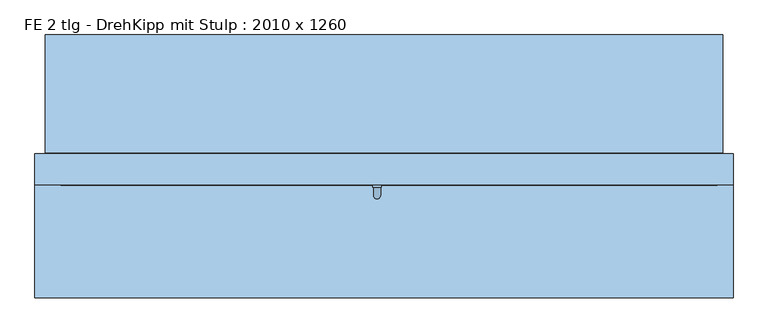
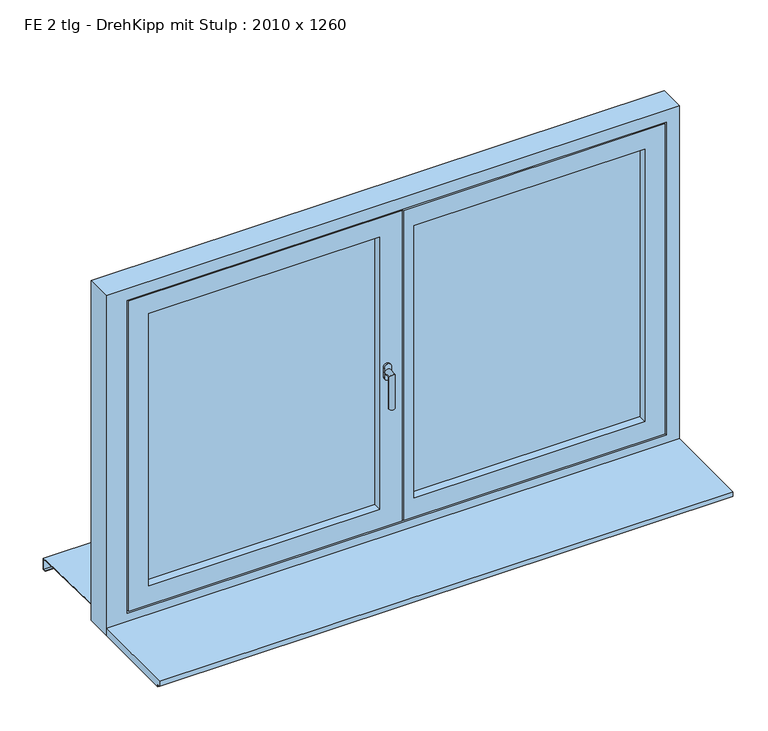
"""IFC4 building model written with IfcOpenShell, lengths in millimetres: window geometry, FE 2 tlg - DrehKipp mit Stulp : 2010 x 1260."""

from ifc_helpers import new_model, si_unit, frame, origin, place, context, project, spatial, polyline, circle_curve, ellipse_curve, outline, extrude, faceted_brep, source, transform, mapped, element, save
from ifc_brep_helpers import plane_surface, cylinder_surface, advanced_brep


def fe_2_tlg_drehkipp_mit_stulp_2010_x_1260_aa5a6977(model_context):
    return source(origin(), model_context, "Body", "SolidModel", [
        advanced_brep(
        [(-32.5, 12.5, 1502.5), (-7.5, 12.5, 1502.5), (-7.5, 12.5, 1485.0), (-7.5, 12.5, 1467.5), (-32.5, 12.5, 1467.5), (-32.5, 12.5, 1485.0), (-10.0, -17.5, 1485.0), (-10.0, 6.5, 1485.0), (-30.0, 6.5, 1485.0), (-30.0, -17.5, 1485.0), (-10.0, -17.5, 1365.0), (-30.0, -17.5, 1365.0), (-32.5, 6.5, 1502.5), (-32.5, 6.5, 1485.0), (-32.5, 6.5, 1467.5), (-7.5, 6.5, 1467.5), (-7.5, 6.5, 1485.0), (-7.5, 6.5, 1502.5)],
        [
            (0, 1, circle_curve(frame((-20.0, 12.5, 1502.5), z_axis=(0.0, 1.0, 0.0), x_axis=(-1.0, 0.0, 0.0)), 12.5)),
            (1, 2),
            (2, 3),
            (3, 4, circle_curve(frame((-20.0, 12.5, 1467.5), z_axis=(0.0, 1.0, 0.0), x_axis=(-1.0, 0.0, 0.0)), 12.5)),
            (4, 5),
            (5, 0),
            (6, 7),
            (7, 8, circle_curve(frame((-20.0, 6.5, 1485.0), z_axis=(0.0, -1.0, 0.0), x_axis=(-1.0, 0.0, 0.0)), 10.0)),
            (8, 9),
            (9, 6, ellipse_curve(frame((-20.0, -17.5, 1485.0), z_axis=(0.0, 0.7071067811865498, 0.7071067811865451), x_axis=(0.0, 0.7071067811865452, -0.7071067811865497)), 14.1421356, 10.0)),
            (8, 7, circle_curve(frame((-20.0, 6.5, 1485.0), z_axis=(0.0, -1.0, 0.0), x_axis=(-1.0, 0.0, 0.0)), 10.0)),
            (6, 9, ellipse_curve(frame((-20.0, -17.5, 1485.0), z_axis=(0.0, 0.7071067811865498, 0.7071067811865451), x_axis=(0.0, 0.7071067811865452, -0.7071067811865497)), 14.1421356, 10.0)),
            (10, 11, circle_curve(frame((-20.0, -17.5, 1365.0), z_axis=(0.0, 0.0, -1.0), x_axis=(-1.0, 0.0, 0.0)), 10.0)),
            (11, 10, circle_curve(frame((-20.0, -17.5, 1365.0), z_axis=(0.0, 0.0, -1.0), x_axis=(-1.0, 0.0, 0.0)), 10.0)),
            (9, 11),
            (10, 6),
            (12, 13),
            (13, 14),
            (14, 15, circle_curve(frame((-20.0, 6.5, 1467.5), z_axis=(0.0, -1.0, 0.0), x_axis=(-1.0, 0.0, 0.0)), 12.5)),
            (15, 16),
            (16, 17),
            (17, 12, circle_curve(frame((-20.0, 6.5, 1502.5), z_axis=(0.0, -1.0, 0.0), x_axis=(-1.0, 0.0, 0.0)), 12.5)),
            (17, 1),
            (0, 12),
            (16, 2),
            (15, 3),
            (14, 4),
            (13, 5),
        ],
        [
            plane_surface(frame((-20.0, 12.5, 1485.0), z_axis=(0.0, 1.0, 0.0), x_axis=(-1.0, 0.0, 0.0))),
            cylinder_surface(frame((-20.0, 12.5, 1485.0), z_axis=(0.0, 1.0, 0.0), x_axis=(-1.0, 0.0, 0.0)), 10.0),
            plane_surface(frame((-20.0, -17.5, 1365.0), z_axis=(0.0, 0.0, -1.0), x_axis=(-1.0, 0.0, 0.0))),
            cylinder_surface(frame((-20.0, -17.5, 1485.0), z_axis=(0.0, 0.0, 1.0), x_axis=(-1.0, 0.0, 0.0)), 10.0),
            plane_surface(frame((-32.5, 6.5, 1502.5), z_axis=(0.0, -1.0, 0.0), x_axis=(0.0, 0.0, 1.0))),
            cylinder_surface(frame((-20.0, 12.5, 1502.5), z_axis=(0.0, -1.0, 0.0), x_axis=(-1.0, 0.0, 0.0)), 12.5),
            plane_surface(frame((-7.5, 6.5, 1502.5), z_axis=(1.0, 0.0, 0.0), x_axis=(0.0, 1.0, 0.0))),
            plane_surface(frame((-7.5, 6.5, 1485.0), z_axis=(1.0, 0.0, 0.0), x_axis=(0.0, 1.0, 0.0))),
            cylinder_surface(frame((-20.0, 12.5, 1467.5), z_axis=(0.0, -1.0, 0.0), x_axis=(-1.0, 0.0, 0.0)), 12.5),
            plane_surface(frame((-32.5, 6.5, 1467.5), z_axis=(-1.0, 0.0, 0.0), x_axis=(0.0, 1.0, 0.0))),
            plane_surface(frame((-32.5, 6.5, 1485.0), z_axis=(-1.0, 0.0, 0.0), x_axis=(0.0, 1.0, 0.0))),
        ],
        [
            (0, [[1, 2, 3, 4, 5, 6]]),
            (1, [[7, 8, 9, 10]]),
            (1, [[-9, 11, -7, 12]]),
            (2, [[13, 14]]),
            (3, [[15, -13, 16, -10]]),
            (3, [[-16, -14, -15, -12]]),
            (4, [[17, 18, 19, 20, 21, 22], [-11, -8]]),
            (5, [[23, -1, 24, -22]]),
            (6, [[25, -2, -23, -21]]),
            (7, [[26, -3, -25, -20]]),
            (8, [[27, -4, -26, -19]]),
            (9, [[28, -5, -27, -18]]),
            (10, [[-24, -6, -28, -17]]),
        ],
    ),
        extrude(outline(polyline([(75.0, 43.5), (75.0, 87.5), (885.0, 87.5), (885.0, 43.5), (75.0, 43.5)])), frame((0.0, 0.0, 980.0), z_axis=(0.0, 0.0, 1.0), x_axis=(1.0, 0.0, 0.0)), (0.0, 0.0, 1.0), 1010.0),
        extrude(outline(polyline([(-855.0, 87.5), (-45.0, 87.5), (-45.0, 43.5), (-855.0, 43.5), (-855.0, 87.5)])), frame((0.0, 0.0, 980.0), z_axis=(0.0, 0.0, 1.0), x_axis=(1.0, 0.0, 0.0)), (0.0, 0.0, 1.0), 1010.0),
        faceted_brep([(-2.5, 102.5, 2020.0), (915.0, 102.5, 2020.0), (915.0, 102.5, 950.0), (-2.5, 102.5, 950.0), (75.0, 102.5, 1990.0), (75.0, 102.5, 980.0), (885.0, 102.5, 980.0), (885.0, 102.5, 1990.0), (37.5, 12.5, 910.0), (37.5, 27.5, 910.0), (955.0, 27.5, 910.0), (955.0, 12.5, 910.0), (955.0, 27.5, 2060.0), (955.0, 12.5, 2060.0), (37.5, 12.5, 2060.0), (75.0, 12.5, 1990.0), (885.0, 12.5, 1990.0), (885.0, 12.5, 980.0), (75.0, 12.5, 980.0), (37.5, 27.5, 2060.0), (37.5, 27.5, 2045.0), (37.5, 27.5, 925.0), (-2.5, 87.5, 950.0), (-2.5, 87.5, 2020.0), (12.5, 87.5, 950.0), (12.5, 87.5, 2020.0), (12.5, 87.5, 935.0), (12.5, 57.5, 935.0), (12.5, 57.5, 2035.0), (12.5, 87.5, 2035.0), (22.5, 57.5, 935.0), (22.5, 57.5, 2035.0), (22.5, 57.5, 925.0), (22.5, 27.5, 925.0), (22.5, 27.5, 2045.0), (22.5, 57.5, 2045.0), (915.0, 87.5, 950.0), (915.0, 87.5, 2020.0), (940.0, 27.5, 2045.0), (940.0, 27.5, 925.0), (930.0, 57.5, 935.0), (930.0, 87.5, 935.0), (930.0, 87.5, 2035.0), (940.0, 57.5, 925.0), (930.0, 57.5, 2035.0), (940.0, 57.5, 2045.0)], [[[0, 1, 2, 3], [4, 5, 6, 7]], [[8, 9, 10, 11]], [[11, 10, 12, 13]], [[13, 14, 8, 11], [15, 16, 17, 18]], [[18, 5, 4, 15]], [[17, 6, 5, 18]], [[16, 7, 6, 17]], [[13, 12, 19, 14]], [[15, 4, 7, 16]], [[14, 19, 20, 21, 9, 8]], [[3, 22, 23, 0]], [[22, 24, 25, 23]], [[24, 26, 27, 28, 29, 25]], [[27, 30, 31, 28]], [[30, 32, 33, 34, 35, 31]], [[33, 21, 20, 34]], [[36, 24, 22, 3, 2]], [[2, 1, 37, 36]], [[38, 20, 19, 12, 10, 9, 21, 39]], [[40, 30, 27, 26, 41]], [[37, 25, 29, 42, 41, 26, 24, 36]], [[39, 21, 33, 32, 43]], [[44, 31, 35, 45, 43, 32, 30, 40]], [[41, 42, 44, 40]], [[43, 45, 38, 39]], [[1, 0, 23, 25, 37]], [[42, 29, 28, 31, 44]], [[45, 35, 34, 20, 38]]]),
        faceted_brep([(-900.0, 87.5, 2035.0), (7.5, 87.5, 2035.0), (7.5, 87.5, 935.0), (-900.0, 87.5, 935.0), (-885.0, 87.5, 950.0), (-7.5, 87.5, 950.0), (-7.5, 87.5, 2020.0), (-885.0, 87.5, 2020.0), (-885.0, 102.5, 2020.0), (-885.0, 102.5, 950.0), (-7.5, 102.5, 950.0), (-7.5, 102.5, 2020.0), (-855.0, 102.5, 1990.0), (-855.0, 102.5, 980.0), (-45.0, 102.5, 980.0), (-45.0, 102.5, 1990.0), (-910.0, 57.5, 2045.0), (17.5, 57.5, 2045.0), (17.5, 57.5, 925.0), (-910.0, 57.5, 925.0), (-900.0, 57.5, 935.0), (7.5, 57.5, 935.0), (7.5, 57.5, 2035.0), (-900.0, 57.5, 2035.0), (-925.0, 27.5, 2060.0), (32.5, 27.5, 2060.0), (32.5, 27.5, 910.0), (-925.0, 27.5, 910.0), (-910.0, 27.5, 925.0), (17.5, 27.5, 925.0), (17.5, 27.5, 2045.0), (-910.0, 27.5, 2045.0), (-925.0, 12.5, 2060.0), (-925.0, 12.5, 910.0), (32.5, 12.5, 910.0), (32.5, 12.5, 2060.0), (-855.0, 12.5, 1990.0), (-45.0, 12.5, 1990.0), (-45.0, 12.5, 980.0), (-855.0, 12.5, 980.0)], [[[0, 1, 2, 3], [4, 5, 6, 7]], [[7, 8, 9, 4]], [[9, 10, 5, 4]], [[8, 11, 10, 9], [12, 13, 14, 15]], [[16, 17, 18, 19], [20, 21, 22, 23]], [[23, 0, 3, 20]], [[2, 21, 20, 3]], [[24, 25, 26, 27], [28, 29, 30, 31]], [[31, 16, 19, 28]], [[18, 29, 28, 19]], [[5, 10, 11, 6]], [[1, 22, 21, 2]], [[17, 30, 29, 18]], [[32, 24, 27, 33]], [[26, 34, 33, 27]], [[25, 35, 34, 26]], [[33, 34, 35, 32], [36, 37, 38, 39]], [[39, 13, 12, 36]], [[38, 14, 13, 39]], [[37, 15, 14, 38]], [[7, 6, 11, 8]], [[23, 22, 1, 0]], [[31, 30, 17, 16]], [[32, 35, 25, 24]], [[36, 12, 15, 37]]]),
        faceted_brep([(-975.0, 444.5, 861.3125305), (-975.0, 422.5, 862.0000305), (-975.0, 104.5, 871.9375305), (975.0, 104.5, 871.9375305), (975.0, 422.5, 862.0000305), (975.0, 444.5, 861.3125305), (-975.0, 444.5, 821.3125305), (975.0, 444.5, 821.3125305), (-975.0, 432.5, 821.3125305), (975.0, 432.5, 821.3125305), (-975.0, 432.5, 823.3125305), (975.0, 432.5, 823.3125305), (-975.0, 442.5, 823.3125305), (975.0, 442.5, 823.3125305), (-975.0, 442.5, 859.375), (975.0, 442.5, 859.375), (-975.0, 422.5, 860.0), (975.0, 422.5, 860.0), (975.0, 102.5, 870.0), (-975.0, 102.5, 870.0), (-975.0, 102.5, 890.0), (975.0, 102.5, 890.0), (-975.0, 104.5, 890.0), (975.0, 104.5, 890.0)], [[[0, 1, 2, 3, 4, 5]], [[6, 0, 5, 7]], [[8, 6, 7, 9]], [[10, 8, 9, 11]], [[12, 10, 11, 13]], [[14, 12, 13, 15]], [[16, 14, 15, 17, 18, 19]], [[20, 19, 18, 21]], [[22, 20, 21, 23]], [[2, 22, 23, 3]], [[16, 1, 0, 6, 8, 10, 12, 14]], [[17, 4, 3, 23, 21, 18]], [[1, 16, 19, 20, 22, 2]], [[4, 17, 15, 13, 11, 9, 7, 5]]]),
        faceted_brep([(1005.0, 102.5, 850.0), (1005.0, 12.5, 850.0), (-1005.0, 12.5, 850.0), (-1005.0, 102.5, 850.0), (1005.0, 102.5, 2110.0), (1005.0, 12.5, 2110.0), (-1005.0, 12.5, 2110.0), (960.0, 12.5, 2065.0), (960.0, 12.5, 905.0), (-930.0, 12.5, 905.0), (-930.0, 12.5, 2065.0), (-1005.0, 102.5, 2110.0), (920.0, 102.5, 945.0), (920.0, 102.5, 2025.0), (-890.0, 102.5, 2025.0), (-890.0, 102.5, 945.0), (920.0, 87.5, 945.0), (920.0, 87.5, 2025.0), (-890.0, 87.5, 945.0), (-890.0, 87.5, 2025.0), (960.0, 27.5, 2065.0), (960.0, 27.5, 905.0), (-930.0, 27.5, 905.0), (-930.0, 27.5, 2065.0), (945.0, 27.5, 2050.0), (945.0, 27.5, 920.0), (-915.0, 27.5, 920.0), (-915.0, 27.5, 2050.0), (945.0, 57.5, 920.0), (945.0, 57.5, 2050.0), (-915.0, 57.5, 2050.0), (-915.0, 57.5, 920.0), (935.0, 57.5, 2040.0), (935.0, 57.5, 930.0), (-905.0, 57.5, 930.0), (-905.0, 57.5, 2040.0), (935.0, 87.5, 930.0), (935.0, 87.5, 2040.0), (-905.0, 87.5, 2040.0), (-905.0, 87.5, 930.0)], [[[0, 1, 2, 3]], [[4, 5, 1, 0]], [[5, 6, 2, 1], [7, 8, 9, 10]], [[6, 11, 3, 2]], [[11, 4, 0, 3], [12, 13, 14, 15]], [[12, 16, 17, 13]], [[18, 15, 14, 19]], [[16, 12, 15, 18]], [[20, 21, 8, 7]], [[8, 21, 22, 9]], [[9, 22, 23, 10]], [[21, 20, 23, 22], [24, 25, 26, 27]], [[28, 29, 30, 31], [32, 33, 34, 35]], [[29, 28, 25, 24]], [[25, 28, 31, 26]], [[36, 37, 38, 39], [17, 16, 18, 19]], [[37, 36, 33, 32]], [[33, 36, 39, 34]], [[26, 31, 30, 27]], [[34, 39, 38, 35]], [[4, 11, 6, 5]], [[20, 7, 10, 23]], [[29, 24, 27, 30]], [[37, 32, 35, 38]], [[13, 17, 19, 14]]]),
        extrude(outline(polyline([(-312.5, 875.0), (12.5, 875.0), (12.5, 850.0), (-302.5, 850.0), (-302.5, 857.0), (-312.5, 857.0), (-312.5, 875.0)])), frame((-1005.0, 0.0, 0.0), z_axis=(1.0, 0.0, 0.0), x_axis=(0.0, 1.0, 0.0)), (0.0, 0.0, 1.0), 2010.0),
    ])


if __name__ == "__main__":
    model = new_model("IFC4")
    model_context = context("Model", 3, world=origin())
    ifc_project = project(units=[si_unit("LENGTHUNIT", "METRE", prefix="MILLI")], contexts=[model_context])
    site = spatial("IfcSite", under=ifc_project)
    building = spatial("IfcBuilding", under=site)
    placement = place(None, origin())
    fe_2_tlg_drehkipp_mit_stulp_2010_x_1260_shape = fe_2_tlg_drehkipp_mit_stulp_2010_x_1260_aa5a6977(model_context)
    element("IfcWindow", 1, ObjectType="FE 2 tlg - DrehKipp mit Stulp : 2010 x 1260", at=placement, inside=building, context=model_context, shape_type="MappedRepresentation", body=[
        mapped(fe_2_tlg_drehkipp_mit_stulp_2010_x_1260_shape, transform((0.0, 0.0, 0.0), x_axis=(1.0, 0.0, 0.0), y_axis=(0.0, 1.0, 0.0), z_axis=(0.0, 0.0, 1.0))),
    ])
    save(model, "model.ifc")
